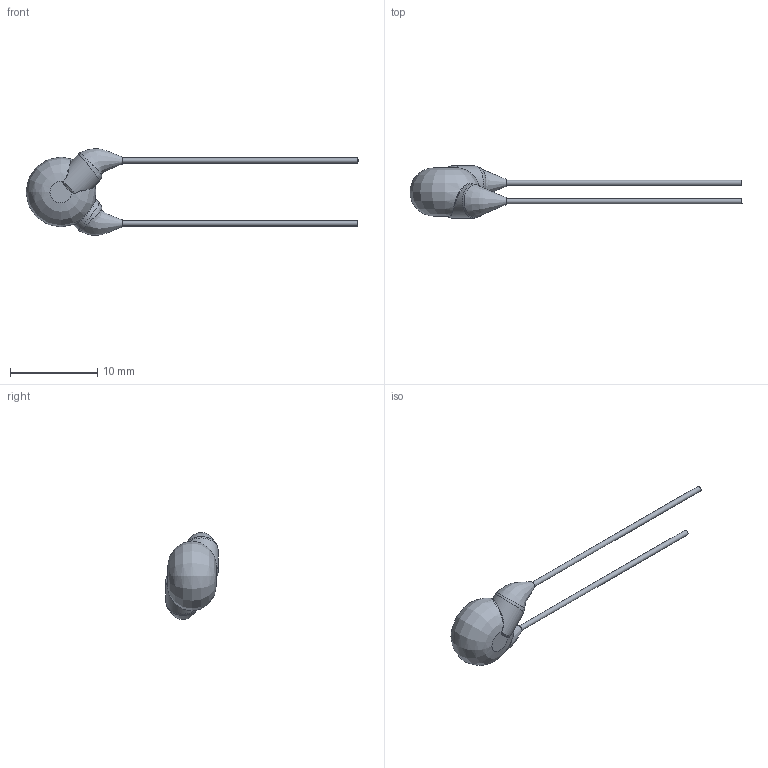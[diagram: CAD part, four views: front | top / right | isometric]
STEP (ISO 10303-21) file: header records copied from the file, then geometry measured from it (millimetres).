
FILE_DESCRIPTION(/* description */ (''),/* implementation_level */ '2;1');
FILE_NAME(/* name */ 'I:\Marketing\M6t1\3D-Models\Zchng-Werk-3\Upload for homepage\Roederstein\VKO\Y5U_300-440\VKO152MCQCF0KR\VKO152MCQCF0KR.stp',/* time_stamp */ '2018-03-19T13:29:32+01:00',/* author */ ('sheinrich'),/* organization */ (''),/* preprocessor_version */ 'ST-DEVELOPER v16.1',/* originating_system */ 'Autodesk Inventor 2016',/* authorisation */ '');
FILE_SCHEMA (('AUTOMOTIVE_DESIGN { 1 0 10303 214 3 1 1 }'));
Length unit declared in the file: centimetre
Products named in the file (1): VKO152MCQCF0KR
Bounding box: 37.99 x 6 x 9.94 mm (x, y, z)
Volume: 288.6 mm3; surface area: 344.6 mm2
Topology: 1 solids, 1 shells, 25 faces, 57 edges, 36 vertices
Faces by surface type: bspline 13, plane 6, cylinder 4, torus 2
Full cylindrical faces by diameter (mm): 0.6 x2, 3.9 x2
Entity records: 1839 total; most frequent: CARTESIAN_POINT 1319, ORIENTED_EDGE 102, DIRECTION 70, EDGE_CURVE 51, AXIS2_PLACEMENT_3D 35, VERTEX_POINT 34, EDGE_LOOP 31, B_SPLINE_CURVE_WITH_KNOTS 28
